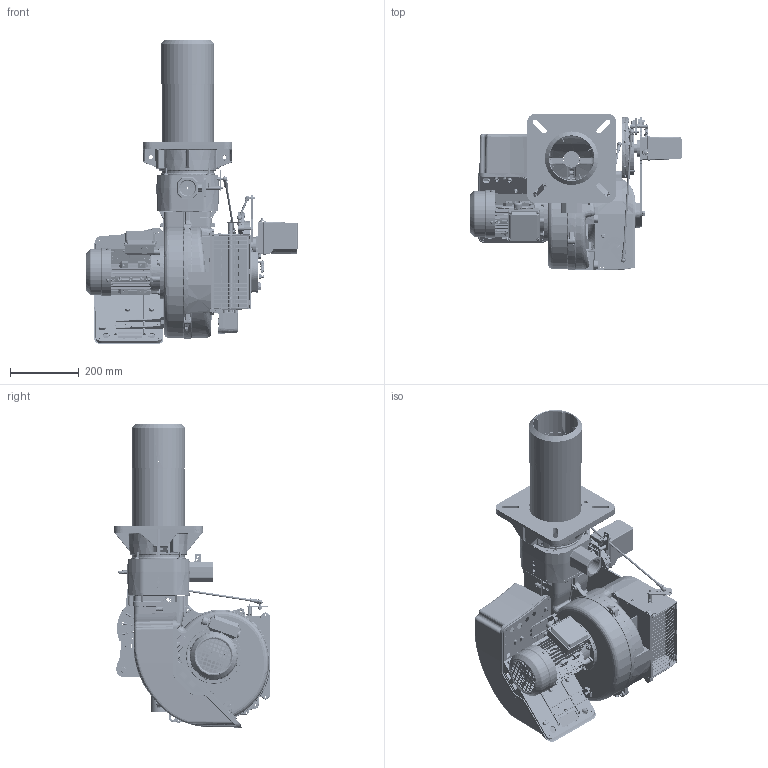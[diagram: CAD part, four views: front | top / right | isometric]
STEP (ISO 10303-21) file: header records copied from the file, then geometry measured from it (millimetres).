
FILE_DESCRIPTION (( 'STEP AP214' ), '1' );
FILE_NAME ('17310010-106845.STEP', '2017-09-13T15:16:15', ( '' ), ( '' ), 'SwSTEP 2.0', 'SolidWorks 2016', '' );
FILE_SCHEMA (( 'AUTOMOTIVE_DESIGN' ));
Length unit declared in the file: millimetre
Products named in the file (1): 17310010-106845
Bounding box: 618.04 x 455.7 x 889.02 mm (x, y, z)
Surface area: 2527892 mm2 (no closed solid volume)
Topology: 0 solids, 399 shells, 4313 faces, 19315 edges, 14738 vertices
Faces by surface type: plane 2066, cylinder 1157, bspline 663, cone 329, torus 69, sphere 29
Full cylindrical faces by diameter (mm): 1.2 x1, 2.5 x2, 3.5 x1, 3.6 x1, 3.95 x3, 4 x1, 4.2 x11, 4.5 x2, 4.6 x2, 4.7 x1, 5 x31, 5.1 x2, 5.2 x4, 5.23 x4, 5.5 x8, 5.8 x2, 5.857 x1, 6 x20, 6.2 x1, 6.5 x2, 6.75 x2, 7 x7, 8 x26, 8.2 x1, 8.8 x2, 9 x1, 9.3 x1, 9.5 x6, 9.64 x1, 9.728 x1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
Entity records: 349246 total; most frequent: CARTESIAN_POINT 165711, ORIENTED_EDGE 26153, DIRECTION 22234, EDGE_CURVE 18711, VERTEX_POINT 14588, VECTOR 9340, LINE 9340, AXIS2_PLACEMENT_3D 6447
